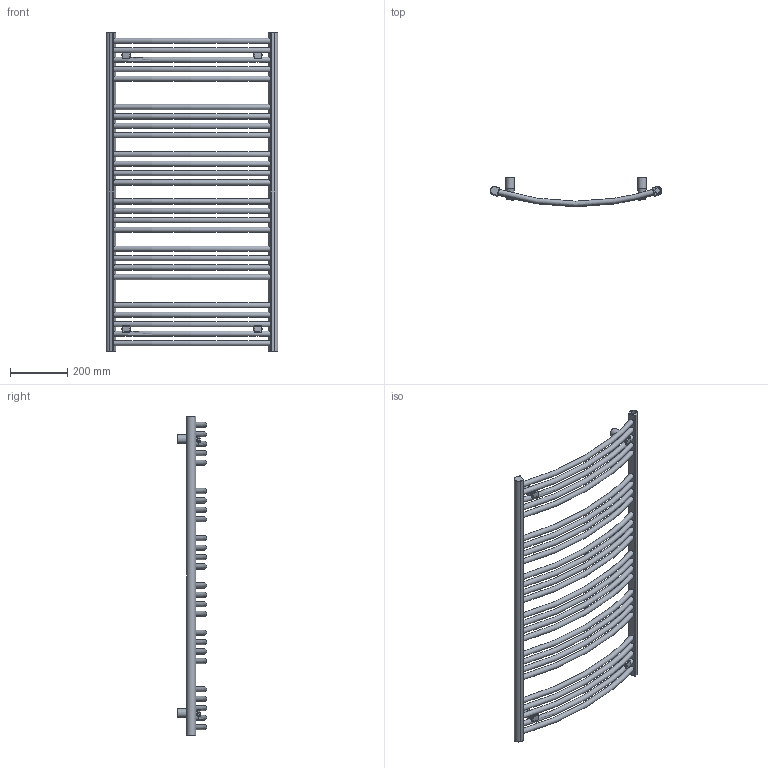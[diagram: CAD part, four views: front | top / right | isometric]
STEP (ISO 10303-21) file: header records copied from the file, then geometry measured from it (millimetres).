
FILE_DESCRIPTION((''),'2;1');
FILE_NAME('Z:\R\G\P\RGPH14 - Grzejnik Domi\Work\Inventor\Marketing\STEP\DO-11-60 SX.stp','2012-07-23T16:25:18',('PioRo'),(''),'Autodesk Inventor 2012','Autodesk Inventor 2012','');
FILE_SCHEMA(('AUTOMOTIVE_DESIGN { 1 0 10303 214 1 1 1 1 }'));
Length unit declared in the file: millimetre
Products named in the file (1): DO-11-60 SX
Bounding box: 599.97 x 102 x 1116 mm (x, y, z)
Volume: 5585284.4 mm3; surface area: 1069079.5 mm2
Topology: 1 solids, 5 shells, 224 faces, 527 edges, 334 vertices
Faces by surface type: cylinder 85, plane 73, torus 42, bspline 20, cone 4
Full cylindrical faces by diameter (mm): 5 x8, 9 x4, 18.631 x3, 21.8 x4, 30 x4
Entity records: 7301 total; most frequent: CARTESIAN_POINT 2033, DIRECTION 1050, ORIENTED_EDGE 924, EDGE_CURVE 462, AXIS2_PLACEMENT_3D 451, EDGE_LOOP 364, VERTEX_POINT 322, FACE_OUTER_BOUND 224
